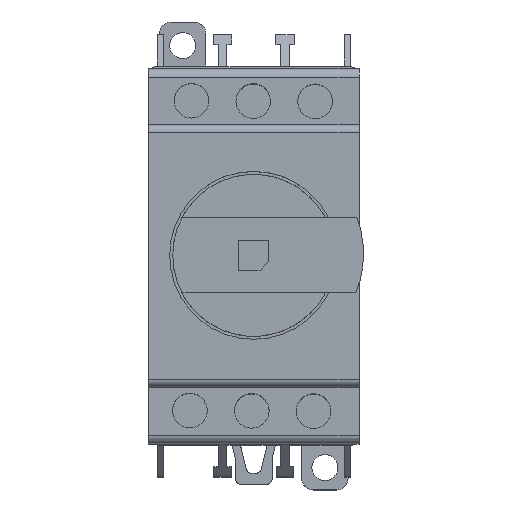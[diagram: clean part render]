
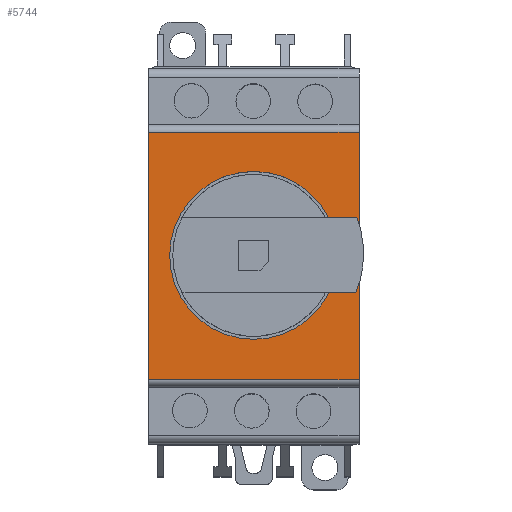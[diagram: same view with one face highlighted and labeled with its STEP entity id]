
A CAD part, top view. The second image highlights one B-rep face of the part: STEP entity #5744.
In plain terms, the highlighted planar face has unit normal (0, 0, 1).
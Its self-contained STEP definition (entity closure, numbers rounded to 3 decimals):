
#157 = EDGE_LOOP ( 'NONE', ( #1578, #4495, #6604, #1982 ) ) ;
#384 = CARTESIAN_POINT ( 'NONE',  ( -0.021, 0.001, 63.7 ) ) ;
#805 = CARTESIAN_POINT ( 'NONE',  ( 18.212, -21.486, 63.7 ) ) ;
#1196 = CARTESIAN_POINT ( 'NONE',  ( 18.212, -21.486, 63.7 ) ) ;
#1577 = VERTEX_POINT ( 'NONE', #8799 ) ;
#1578 = ORIENTED_EDGE ( 'NONE', *, *, #8003, .T. ) ;
#1675 = EDGE_CURVE ( 'NONE', #6275, #6275, #8785, .T. ) ;
#1823 = EDGE_CURVE ( 'NONE', #2595, #1577, #8672, .T. ) ;
#1982 = ORIENTED_EDGE ( 'NONE', *, *, #1823, .F. ) ;
#2262 = VERTEX_POINT ( 'NONE', #7600 ) ;
#2321 = DIRECTION ( 'NONE',  ( 0., 1., 0. ) ) ;
#2493 = DIRECTION ( 'NONE',  ( 0., 0., 1. ) ) ;
#2530 = LINE ( 'NONE', #6588, #4539 ) ;
#2545 = DIRECTION ( 'NONE',  ( 0., 0., 1. ) ) ;
#2549 = CARTESIAN_POINT ( 'NONE',  ( 14.503, 0.001, 63.7 ) ) ;
#2595 = VERTEX_POINT ( 'NONE', #805 ) ;
#3354 = CARTESIAN_POINT ( 'NONE',  ( 18.212, 21.281, 63.7 ) ) ;
#3897 = CARTESIAN_POINT ( 'NONE',  ( 18.212, -21.486, 63.7 ) ) ;
#3930 = DIRECTION ( 'NONE',  ( 0., -1., 0. ) ) ;
#4288 = EDGE_LOOP ( 'NONE', ( #4876 ) ) ;
#4495 = ORIENTED_EDGE ( 'NONE', *, *, #5506, .T. ) ;
#4539 = VECTOR ( 'NONE', #2321, 1000. ) ;
#4717 = VECTOR ( 'NONE', #7821, 1000. ) ;
#4777 = FACE_BOUND ( 'NONE', #4288, .T. ) ;
#4876 = ORIENTED_EDGE ( 'NONE', *, *, #1675, .F. ) ;
#5506 = EDGE_CURVE ( 'NONE', #8209, #2262, #5921, .T. ) ;
#5552 = VECTOR ( 'NONE', #6179, 1000. ) ;
#5744 = ADVANCED_FACE ( 'NONE', ( #4777, #6996 ), #8156, .T. ) ;
#5921 = LINE ( 'NONE', #7173, #4717 ) ;
#6179 = DIRECTION ( 'NONE',  ( -1., 0., 0. ) ) ;
#6275 = VERTEX_POINT ( 'NONE', #2549 ) ;
#6435 = CARTESIAN_POINT ( 'NONE',  ( -18.212, -21.486, 63.7 ) ) ;
#6588 = CARTESIAN_POINT ( 'NONE',  ( 18.212, -21.486, 63.7 ) ) ;
#6604 = ORIENTED_EDGE ( 'NONE', *, *, #7292, .F. ) ;
#6996 = FACE_OUTER_BOUND ( 'NONE', #157, .T. ) ;
#7173 = CARTESIAN_POINT ( 'NONE',  ( 18.212, 21.281, 63.7 ) ) ;
#7292 = EDGE_CURVE ( 'NONE', #1577, #2262, #9014, .T. ) ;
#7440 = VECTOR ( 'NONE', #8586, 1000. ) ;
#7600 = CARTESIAN_POINT ( 'NONE',  ( -18.212, 21.281, 63.7 ) ) ;
#7821 = DIRECTION ( 'NONE',  ( -1., 0., 0. ) ) ;
#7887 = AXIS2_PLACEMENT_3D ( 'NONE', #384, #2545, #8237 ) ;
#8003 = EDGE_CURVE ( 'NONE', #2595, #8209, #2530, .T. ) ;
#8156 = PLANE ( 'NONE',  #8458 ) ;
#8209 = VERTEX_POINT ( 'NONE', #3354 ) ;
#8237 = DIRECTION ( 'NONE',  ( 1., 0., 0. ) ) ;
#8458 = AXIS2_PLACEMENT_3D ( 'NONE', #3897, #2493, #3930 ) ;
#8586 = DIRECTION ( 'NONE',  ( 0., 1., 0. ) ) ;
#8672 = LINE ( 'NONE', #1196, #5552 ) ;
#8785 = CIRCLE ( 'NONE', #7887, 14.524 ) ;
#8799 = CARTESIAN_POINT ( 'NONE',  ( -18.212, -21.486, 63.7 ) ) ;
#9014 = LINE ( 'NONE', #6435, #7440 ) ;
